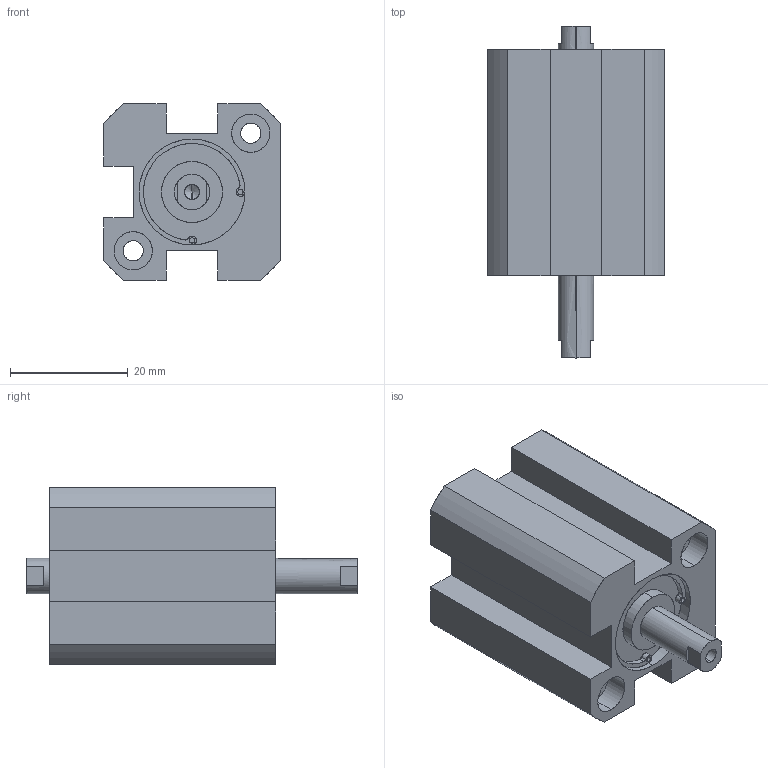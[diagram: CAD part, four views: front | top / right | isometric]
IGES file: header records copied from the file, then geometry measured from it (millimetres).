
Start section: SolidWorks IGES file using analytic representation for surfaces
Global section: file name: C:\Users\Toshiba\Desktop\XC#7-16D-10.IGS; native system: SolidWorks 2014; preprocessor: SolidWorks 2014; author: Toshiba; date: 160523.162137; units: millimetre
Bounding box: 30 x 56.5 x 30 mm (x, y, z)
Surface area: 9056.9 mm2 (no closed solid volume)
Topology: 0 solids, 0 shells, 108 faces, 1704 edges, 1696 vertices
Faces by surface type: revolution 66, bspline 42
